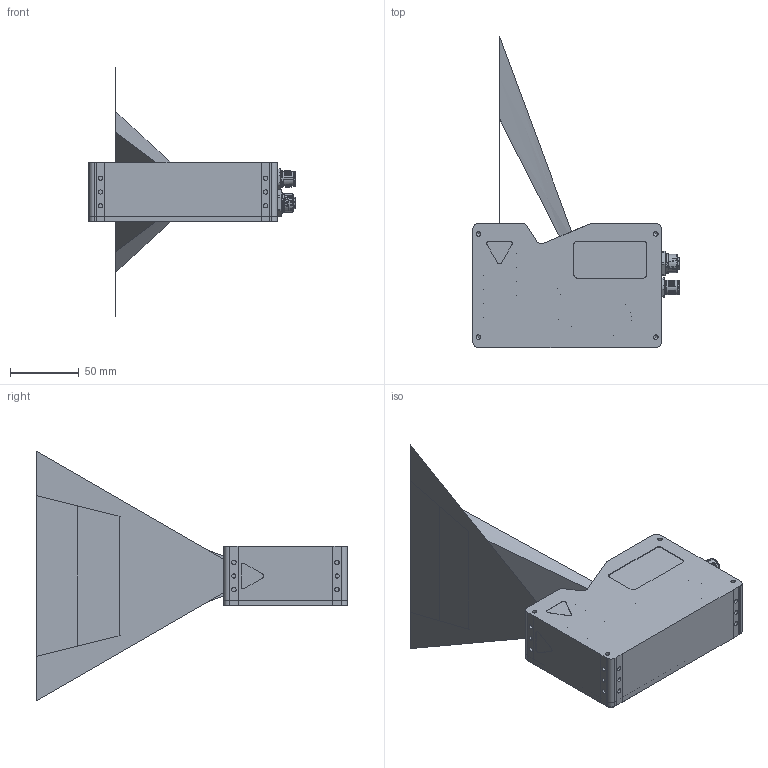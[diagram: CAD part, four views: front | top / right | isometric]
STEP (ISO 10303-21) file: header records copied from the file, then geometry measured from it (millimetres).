
FILE_DESCRIPTION(/* description */ (''),/* implementation_level */ '2;1');
FILE_NAME(/* name */ 'C6-S7-2040-ECS-23-100-106-SX-1G-660-2M_Public.iam.stp',/* time_stamp */ '2025-06-12T11:30:57+02:00',/* author */ ('AT'),/* organization */ ('Automation Technology GmbH'),/* preprocessor_version */ 'ST-DEVELOPER v20',/* originating_system */ 'Autodesk Inventor 2024',/* authorisation */ '');
FILE_SCHEMA (('AUTOMOTIVE_DESIGN { 1 0 10303 214 3 1 1 }'));
Products named in the file (20): C6-S7-2040-ECS-23-100-106-SX-1G-660-2M_Public; SACC-DSI-FS-8CON-L180_SCO SH_1553860-01; SACC-DSI-FS-8CON-L180_SCO SH_1553860_Stecker; SACC-DSI-FS-8CON-L180_SCO SH_1553860_Mutter; SACC-DSI-FS-8CON-L180_SCO SH_1553860_Kunststoffeinsatz; SACC-DSI-MS-17CON-M12 SCO SH_1437119-01; SACC-DSI-MS-17CON-M12 SCO SH_1437119_Stecker; SACC-DSI-MS-17CON-M12 SCO SH_1437119_Mutter; SACC-DSI-MS-17CON-M12 SCO SH_1437119_Pins; SACC-DSI-MS-17CON-M12 SCO SH_1437119_Kunststoffeinsatz; 1292.6001; Glasscheibe33x1; EO: 48-924; Screw GB/T 2672 M2,5 x 4; Screw GB/T 2672 M2,5 x 6; 202202010-028; 602345004; 202202010-009; 202202010-010; C6-S7-2040-ECS-23-100-106-SX-1G-660-2M_Strahlengang
Assembly tree (36 placements, depth 3):
  C6-S7-2040-ECS-23-100-106-SX-1G-660-2M_Public
    SACC-DSI-FS-8CON-L180_SCO SH_1553860-01
      SACC-DSI-FS-8CON-L180_SCO SH_1553860_Stecker
      SACC-DSI-FS-8CON-L180_SCO SH_1553860_Mutter
      SACC-DSI-FS-8CON-L180_SCO SH_1553860_Kunststoffeinsatz
    SACC-DSI-MS-17CON-M12 SCO SH_1437119-01
      SACC-DSI-MS-17CON-M12 SCO SH_1437119_Stecker
      SACC-DSI-MS-17CON-M12 SCO SH_1437119_Mutter
      SACC-DSI-MS-17CON-M12 SCO SH_1437119_Pins
      SACC-DSI-MS-17CON-M12 SCO SH_1437119_Kunststoffeinsatz
    1292.6001  x5
    Glasscheibe33x1
    EO: 48-924
    Screw GB/T 2672 M2,5 x 4  x8
    Screw GB/T 2672 M2,5 x 6  x7
    202202010-028
    602345004
    202202010-009
    202202010-010
    C6-S7-2040-ECS-23-100-106-SX-1G-660-2M_Strahlengang
Bounding box: 150.15 x 226.1 x 181.5 mm (x, y, z)
Volume: 287859.1 mm3; surface area: 147610.3 mm2
Topology: 51 solids, 52 shells, 2268 faces, 5438 edges, 3385 vertices
Faces by surface type: cylinder 950, plane 880, bspline 181, cone 123, torus 85, sphere 49
Full cylindrical faces by diameter (mm): 0.217 x1, 0.6 x25, 0.63 x34, 0.9 x8, 1 x10, 1.1 x17, 1.2 x17, 1.5 x5, 1.567 x7, 1.6 x5, 2 x15, 2.013 x36, 2.208 x15, 2.4 x15, 2.5 x15, 2.6 x12, 2.8 x8, 3 x4, 3.242 x12, 5 x15, 5.5 x15, 7.7 x1, 8.25 x2, 8.3 x1, 8.7 x1, 10.5 x1, 10.7 x3, 10.917 x2, 12 x1, 12.2 x1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
Entity records: 86624 total; most frequent: CARTESIAN_POINT 45537, ORIENTED_EDGE 8184, DIRECTION 8085, EDGE_CURVE 4094, AXIS2_PLACEMENT_3D 2963, VERTEX_POINT 2702, LINE 2159, VECTOR 2159
